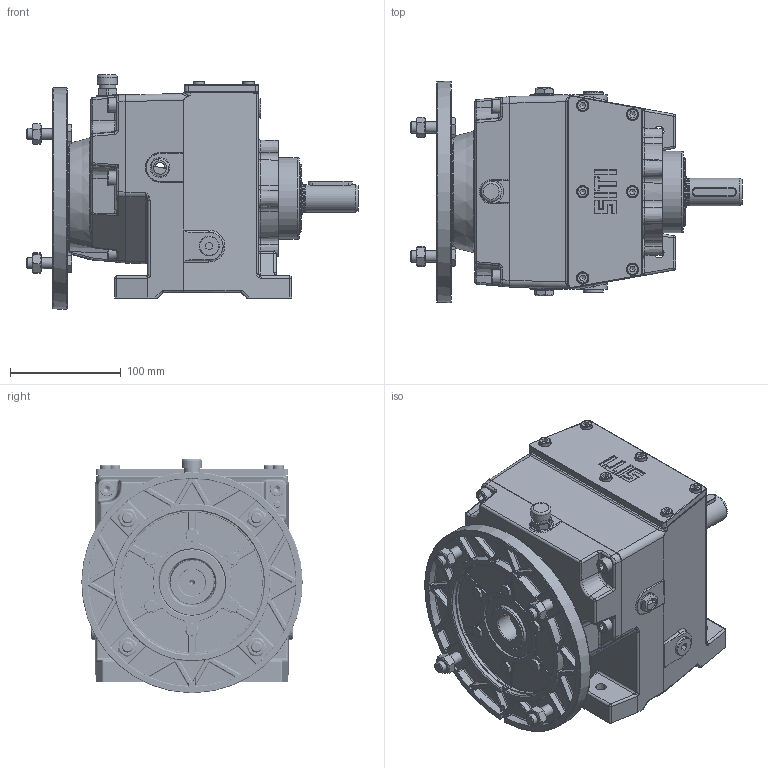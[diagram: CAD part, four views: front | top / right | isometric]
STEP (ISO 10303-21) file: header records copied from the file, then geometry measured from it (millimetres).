
FILE_DESCRIPTION((''),'2;1');
FILE_NAME('O:\Figurini\Figurini NHL\3D\25_2\MNHL 25_2\MNHL 25_2 PAM90 B5 D25.stp','2013-07-09T09:26:54',('d.iannaccio'),(''),'Autodesk Inventor 2012','Autodesk Inventor 2012','');
FILE_SCHEMA(('AUTOMOTIVE_DESIGN { 1 0 10303 214 1 1 1 1 }'));
Length unit declared in the file: millimetre
Products named in the file (1): MNHL_25_2 PAM90 B5 D25
Bounding box: 300.2 x 200 x 211.73 mm (x, y, z)
Volume: 2069567 mm3; surface area: 569725.8 mm2
Topology: 2 solids, 53 shells, 3571 faces, 8367 edges, 4808 vertices
Faces by surface type: cylinder 1121, plane 968, bspline 575, torus 485, cone 226, sphere 196
Full cylindrical faces by diameter (mm): 4.917 x12, 6 x24, 6.5 x14, 6.647 x13, 6.75 x1, 7 x6, 8 x12, 8.4 x1, 8.88 x6, 9 x9, 9.5 x1, 10 x18, 11 x10, 11.445 x2, 12 x1, 12.102 x2, 13 x8, 14 x1, 14.63 x4, 15 x2, 15.995 x1, 16 x1, 17 x1, 18 x5, 18.3 x1, 19 x1, 22 x1, 23.9 x1, 24 x1, 24.374 x1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
Entity records: 118470 total; most frequent: CARTESIAN_POINT 39389, DIRECTION 16079, ORIENTED_EDGE 14988, EDGE_CURVE 7494, AXIS2_PLACEMENT_3D 6766, VERTEX_POINT 4598, EDGE_LOOP 4224, FACE_OUTER_BOUND 3571
